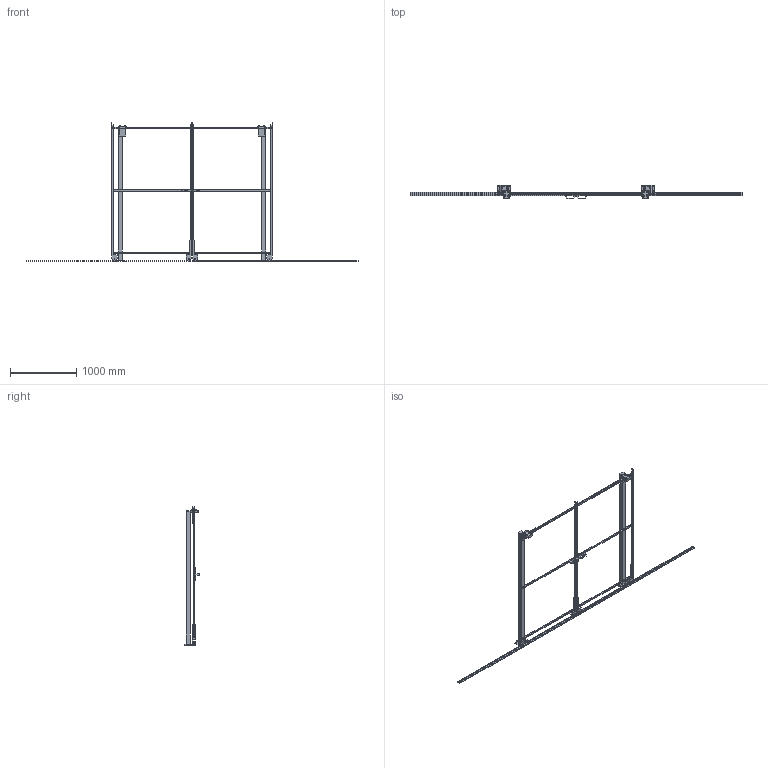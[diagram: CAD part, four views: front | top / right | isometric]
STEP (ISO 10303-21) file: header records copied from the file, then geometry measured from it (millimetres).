
FILE_DESCRIPTION(/* description */ (''),/* implementation_level */ '2;1');
FILE_NAME(/* name */ 'C:\SafeGuarding\ELABORATI\Drawing4_2025-05-13-13-49-30.stp',/* time_stamp */ '2025-05-13T13:49:31+02:00',/* author */ ('admin'),/* organization */ (''),/* preprocessor_version */ 'ST-DEVELOPER v18.1',/* originating_system */ 'AutoCAD Mechanical',/* authorisation */ '');
FILE_SCHEMA (('AUTOMOTIVE_DESIGN { 1 0 10303 214 3 1 1 }'));
Length unit declared in the file: millimetre
Products named in the file (3): Product; R_VFPA.REPE20.12001900; P_VFMA.V260SDU.2020
Assembly tree (4 placements, depth 2):
  Product
    R_VFPA.REPE20.12001900  x2
    P_VFMA.V260SDU.2020  x2
Bounding box: 5000 x 211.41 x 2090 mm (x, y, z)
Volume: 23532117.8 mm3; surface area: 3909947.8 mm2
Topology: 54 solids, 76 shells, 524 faces, 1618 edges, 1517 vertices
Faces by surface type: plane 460, cylinder 56, cone 8
Full cylindrical faces by diameter (mm): 9 x8, 11 x8, 13 x8, 14 x4, 18 x8, 30 x4, 36 x8, 58 x8
Entity records: 15854 total; most frequent: CARTESIAN_POINT 3327, DIRECTION 2395, ORIENTED_EDGE 2320, EDGE_CURVE 1258, LINE 1045, VECTOR 1045, VERTEX_POINT 920, AXIS2_PLACEMENT_3D 675
